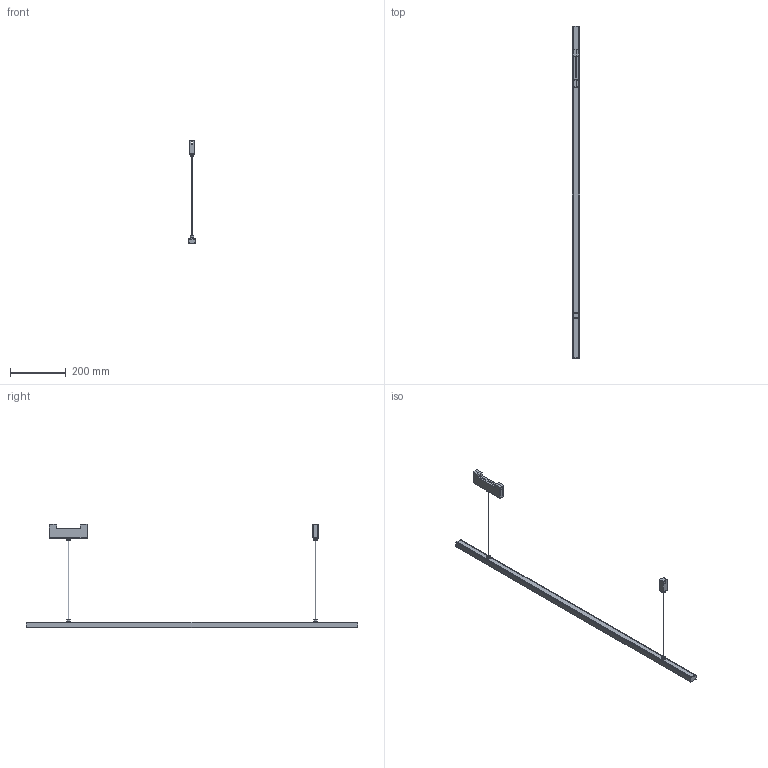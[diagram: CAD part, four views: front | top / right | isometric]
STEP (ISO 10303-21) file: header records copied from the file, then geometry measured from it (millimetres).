
FILE_DESCRIPTION(/* description */ (''),/* implementation_level */ '2;1');
FILE_NAME(/* name */ 'Funivia - Diffused Linear Suspension 1200',/* time_stamp */ '2025-11-25T12:00:56+01:00',/* author */ (''),/* organization */ (''),/* preprocessor_version */ 'ST-DEVELOPER v16.5',/* originating_system */ 'Rhino 7.37',/* authorisation */ '');
FILE_SCHEMA (('AUTOMOTIVE_DESIGN'));
Length unit declared in the file: millimetre
Products named in the file (1): Document
Bounding box: 27 x 1187 x 368.38 mm (x, y, z)
Volume: 324377.1 mm3; surface area: 246532.9 mm2
Topology: 12 solids, 12 shells, 302 faces, 697 edges, 413 vertices
Faces by surface type: cylinder 132, plane 106, bspline 64
Entity records: 8249 total; most frequent: CARTESIAN_POINT 3759, ORIENTED_EDGE 1370, EDGE_CURVE 685, VERTEX_POINT 413, EDGE_LOOP 314, ADVANCED_FACE 302, FACE_OUTER_BOUND 302, DIRECTION 242
